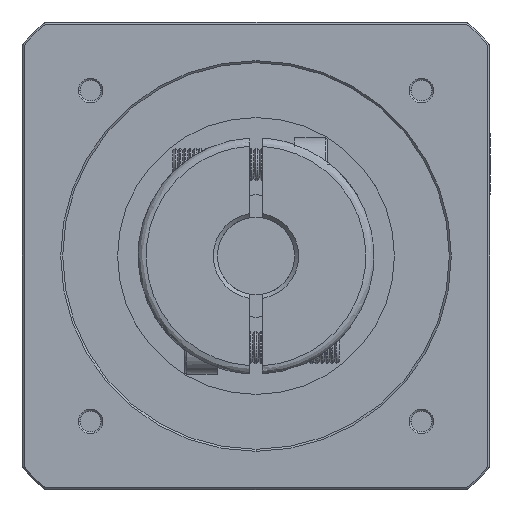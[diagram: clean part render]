
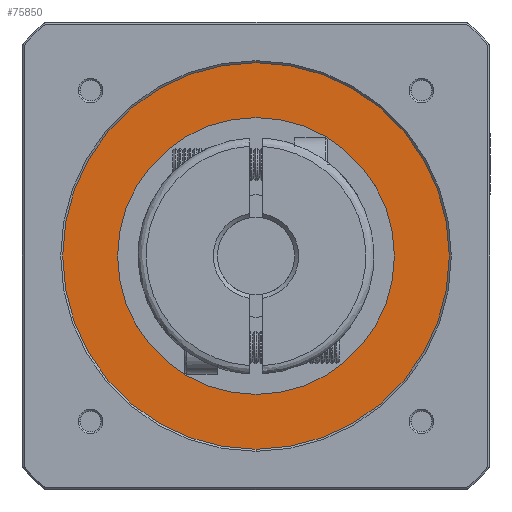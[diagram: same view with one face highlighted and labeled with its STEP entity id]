
A CAD part, front view. The second image highlights one B-rep face of the part: STEP entity #75850.
In plain terms, the highlighted planar face has unit normal (0, 1, 0).
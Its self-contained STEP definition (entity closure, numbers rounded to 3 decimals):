
#578 = FACE_OUTER_BOUND ( 'NONE', #36397, .T. ) ;
#1085 = CARTESIAN_POINT ( 'NONE',  ( 0., -94.111, -34. ) ) ;
#3022 = AXIS2_PLACEMENT_3D ( 'NONE', #90008, #44110, #97692 ) ;
#3773 = VERTEX_POINT ( 'NONE', #1085 ) ;
#4027 = EDGE_CURVE ( 'NONE', #74065, #5751, #24288, .T. ) ;
#5751 = VERTEX_POINT ( 'NONE', #55358 ) ;
#9280 = EDGE_CURVE ( 'NONE', #5751, #74065, #48373, .T. ) ;
#23577 = DIRECTION ( 'NONE',  ( 0., -1., 0. ) ) ;
#24288 = CIRCLE ( 'NONE', #3022, 47.5 ) ;
#26159 = CIRCLE ( 'NONE', #47867, 34. ) ;
#29589 = DIRECTION ( 'NONE',  ( 0., 1., 0. ) ) ;
#29750 = EDGE_CURVE ( 'NONE', #3773, #94620, #67836, .T. ) ;
#33342 = CARTESIAN_POINT ( 'NONE',  ( 0., -94.111, -47.5 ) ) ;
#34614 = ORIENTED_EDGE ( 'NONE', *, *, #4027, .T. ) ;
#34859 = DIRECTION ( 'NONE',  ( 0., -1., 0. ) ) ;
#36021 = DIRECTION ( 'NONE',  ( 0., -1., 0. ) ) ;
#36397 = EDGE_LOOP ( 'NONE', ( #34614, #80056 ) ) ;
#40018 = CARTESIAN_POINT ( 'NONE',  ( 0., -94.111, 34. ) ) ;
#44110 = DIRECTION ( 'NONE',  ( 0., 1., 0. ) ) ;
#47036 = ORIENTED_EDGE ( 'NONE', *, *, #85061, .T. ) ;
#47867 = AXIS2_PLACEMENT_3D ( 'NONE', #80729, #34859, #88458 ) ;
#48373 = CIRCLE ( 'NONE', #57762, 47.5 ) ;
#55358 = CARTESIAN_POINT ( 'NONE',  ( 0., -94.111, 47.5 ) ) ;
#57762 = AXIS2_PLACEMENT_3D ( 'NONE', #75396, #29589, #83113 ) ;
#67836 = CIRCLE ( 'NONE', #82267, 34. ) ;
#69415 = CARTESIAN_POINT ( 'NONE',  ( 0., -94.111, 0. ) ) ;
#72316 = AXIS2_PLACEMENT_3D ( 'NONE', #81904, #36021, #89622 ) ;
#74065 = VERTEX_POINT ( 'NONE', #33342 ) ;
#75396 = CARTESIAN_POINT ( 'NONE',  ( 0., -94.111, 0. ) ) ;
#75850 = ADVANCED_FACE ( 'NONE', ( #79602, #578 ), #96970, .F. ) ;
#77095 = DIRECTION ( 'NONE',  ( 0., 0., 1. ) ) ;
#79602 = FACE_BOUND ( 'NONE', #96276, .T. ) ;
#80056 = ORIENTED_EDGE ( 'NONE', *, *, #9280, .T. ) ;
#80729 = CARTESIAN_POINT ( 'NONE',  ( 0., -94.111, 0. ) ) ;
#81904 = CARTESIAN_POINT ( 'NONE',  ( -48.07, -94.111, -48.07 ) ) ;
#82267 = AXIS2_PLACEMENT_3D ( 'NONE', #69415, #23577, #77095 ) ;
#83113 = DIRECTION ( 'NONE',  ( 0., 0., -1. ) ) ;
#85061 = EDGE_CURVE ( 'NONE', #94620, #3773, #26159, .T. ) ;
#88458 = DIRECTION ( 'NONE',  ( 0., 0., 1. ) ) ;
#89227 = ORIENTED_EDGE ( 'NONE', *, *, #29750, .T. ) ;
#89622 = DIRECTION ( 'NONE',  ( 1., 0., 0. ) ) ;
#90008 = CARTESIAN_POINT ( 'NONE',  ( 0., -94.111, 0. ) ) ;
#94620 = VERTEX_POINT ( 'NONE', #40018 ) ;
#96276 = EDGE_LOOP ( 'NONE', ( #47036, #89227 ) ) ;
#96970 = PLANE ( 'NONE',  #72316 ) ;
#97692 = DIRECTION ( 'NONE',  ( 0., 0., -1. ) ) ;
